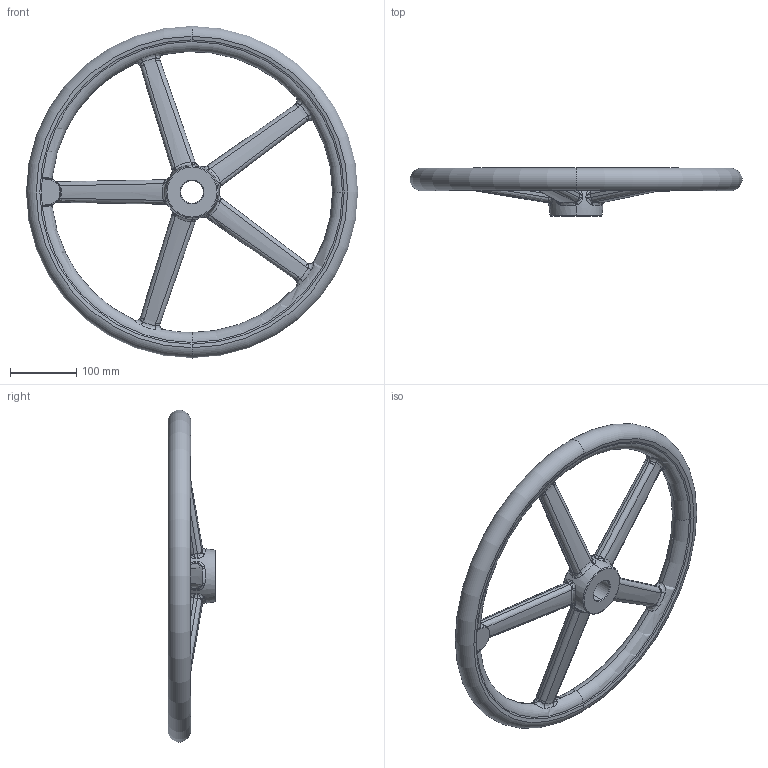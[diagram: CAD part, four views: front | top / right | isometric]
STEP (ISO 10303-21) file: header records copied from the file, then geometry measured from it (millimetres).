
FILE_DESCRIPTION (( 'STEP AP203' ), '1' );
FILE_NAME ('din950_a4_500x34.step', '2010-03-23T10:03:11', ( '_' ), ( '_' ), 'SwSTEP 2.0', 'SolidWorks 2010', '' );
FILE_SCHEMA (( 'CONFIG_CONTROL_DESIGN' ));
Length unit declared in the file: millimetre
Products named in the file (1): din950_a4_500x34
Bounding box: 499.87 x 72 x 499.87 mm (x, y, z)
Volume: 2223686.8 mm3; surface area: 265487 mm2
Topology: 1 solids, 1 shells, 273 faces, 680 edges, 356 vertices
Faces by surface type: bspline 218, torus 22, cone 16, plane 14, cylinder 3
Entity records: 63796 total; most frequent: CARTESIAN_POINT 58820, ORIENTED_EDGE 1272, EDGE_CURVE 636, DIRECTION 592, B_SPLINE_CURVE_WITH_KNOTS 387, VERTEX_POINT 356, AXIS2_PLACEMENT_3D 287, EDGE_LOOP 276
